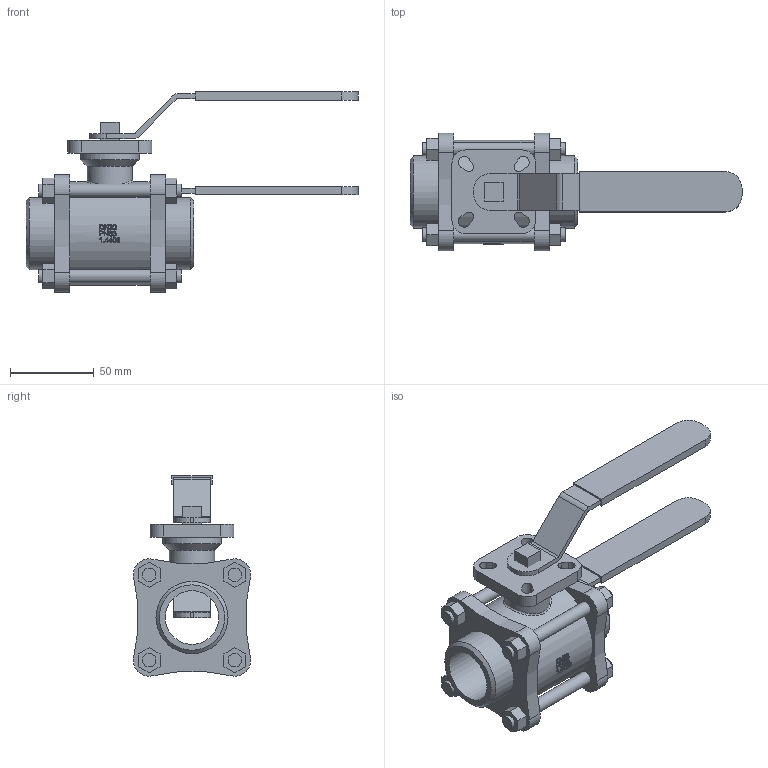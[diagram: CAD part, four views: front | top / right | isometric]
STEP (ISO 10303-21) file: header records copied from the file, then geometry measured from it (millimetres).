
FILE_DESCRIPTION( ( 'Unknown' ), '1' );
FILE_NAME( 'W:/ECCUA/ROOTSI BPS 3D vidinad/Kuulkraanid/Roostevaba kuulkraanid/Ball valve BPS 2421/Ball valve with hand lever BPS/STEP format/BPS 2421032 ball valve DN32.stp', 'Unknown', ( 'Unknown' ), ( 'Unknown' ), 'PSStep 10.1', 'Unknown', ' ' );
FILE_SCHEMA( ( 'AUTOMOTIVE_DESIGN { 1 0 10303 214 1 1 1 1 }' ) );
Length unit declared in the file: millimetre
Products named in the file (3): Assem1; Hand lever for ball valve DN25-32 BPS 2420-21; BPS 2421032 ball valve DN32
Bounding box: 198 x 69.96 x 119.48 mm (x, y, z)
Volume: 516997 mm3; surface area: 125614.5 mm2
Topology: 4 solids, 4 shells, 570 faces, 1412 edges, 942 vertices
Faces by surface type: plane 324, cylinder 154, bspline 86, cone 6
Full cylindrical faces by diameter (mm): 3 x2, 8 x24, 27 x2, 32 x2, 35 x2, 43 x4, 62 x2
Entity records: 14400 total; most frequent: CARTESIAN_POINT 5992, ORIENTED_EDGE 1344, DIRECTION 976, EDGE_CURVE 672, VERTEX_POINT 465, EDGE_LOOP 379, AXIS2_PLACEMENT_3D 356, FACE_OUTER_BOUND 310
